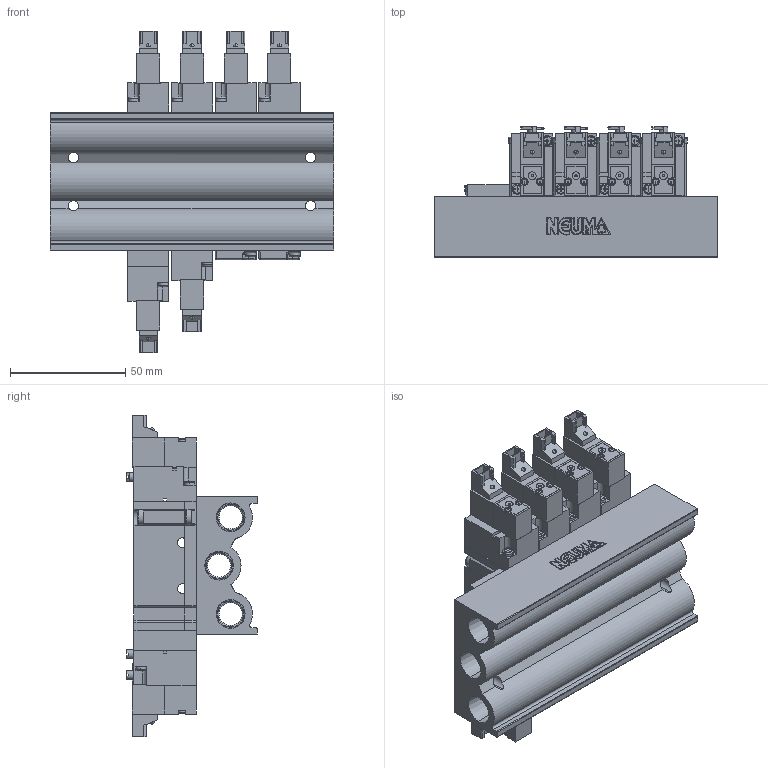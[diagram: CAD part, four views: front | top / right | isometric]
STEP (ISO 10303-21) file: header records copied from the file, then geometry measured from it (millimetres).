
FILE_DESCRIPTION (( 'STEP AP214' ), '1' );
FILE_NAME ('NVS-7500-1(2023-11°æ).STEP', '2023-11-14T11:08:47', ( '' ), ( '' ), 'SwSTEP 2.0', 'SolidWorks 2015', '' );
FILE_SCHEMA (( 'AUTOMOTIVE_DESIGN' ));
Length unit declared in the file: millimetre
Products named in the file (16): NVS-7500-J03_NVS-7500 含操作器引導閥(00); NVS-7500-K03_NVS-7500?簧回位端蓋-(塑膠射出)(X1); 10mm?圈(標準); NVS-5500-N02_NVS5500手動操作器(X0); M2.5x05蹟緲; NVS-7500-C01_NVS7500掛闚(01); NVS-7500-D01_NVS7500笢釱; NVS-7532-1(2023-11唳); M4x30蹟緲; NVS-7522-1(2023-11唳); NVS-7500ﾉwｰ訐ｵLLOGO; M2.5x10蹟緲; NVS-7521-1(2023-11唳); NVS-75005標準式底座; NVS-7500-1(2023-11唳); M4x10蹟緲
Assembly tree (48 placements, depth 3):
  NVS-7500-1(2023-11唳)
    NVS-75005標準式底座
    NVS-7521-1(2023-11唳)  x2
      NVS-7500-C01_NVS7500掛闚(01)
      NVS-7500-J03_NVS-7500 含操作器引導閥(00)
      NVS-7500-K03_NVS-7500?簧回位端蓋-(塑膠射出)(X1)
      10mm?圈(標準)
      M2.5x05蹟緲
      M2.5x10蹟緲
      NVS-5500-N02_NVS5500手動操作器(X0)
    NVS-7522-1(2023-11唳)
      NVS-7500-C01_NVS7500掛闚(01)
      NVS-7500-J03_NVS-7500 含操作器引導閥(00)  x2
      10mm?圈(標準)  x2
      M2.5x10蹟緲  x4
      NVS-5500-N02_NVS5500手動操作器(X0)  x2
    NVS-7532-1(2023-11唳)
      NVS-7500-C01_NVS7500掛闚(01)
      NVS-7500-J03_NVS-7500 含操作器引導閥(00)  x2
      10mm?圈(標準)  x2
      M2.5x10蹟緲  x4
      NVS-5500-N02_NVS5500手動操作器(X0)  x2
      NVS-7500-D01_NVS7500笢釱
    NVS-7500ﾉwｰ訐ｵLLOGO
    M4x30蹟緲  x8
    M4x10蹟緲  x2
Bounding box: 123 x 56.6 x 139.6 mm (x, y, z)
Volume: 294276.5 mm3; surface area: 121619.2 mm2
Topology: 89 solids, 89 shells, 3577 faces, 9201 edges, 5952 vertices
Faces by surface type: plane 2143, cylinder 622, bspline 496, cone 228, torus 76, sphere 12
Entity records: 38416 total; most frequent: CARTESIAN_POINT 10458, ORIENTED_EDGE 5874, DIRECTION 4525, EDGE_CURVE 2937, VERTEX_POINT 1922, VECTOR 1759, LINE 1759, AXIS2_PLACEMENT_3D 1383
